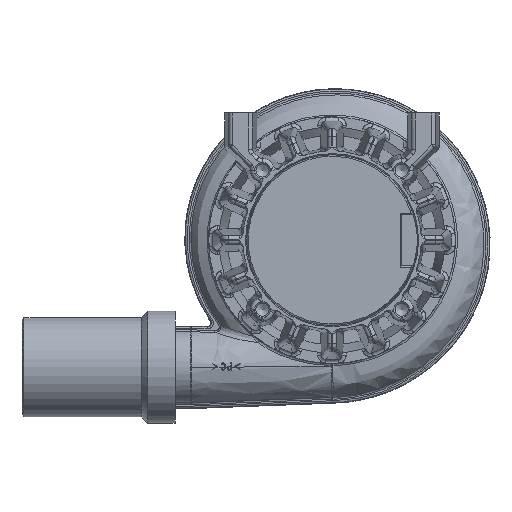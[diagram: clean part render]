
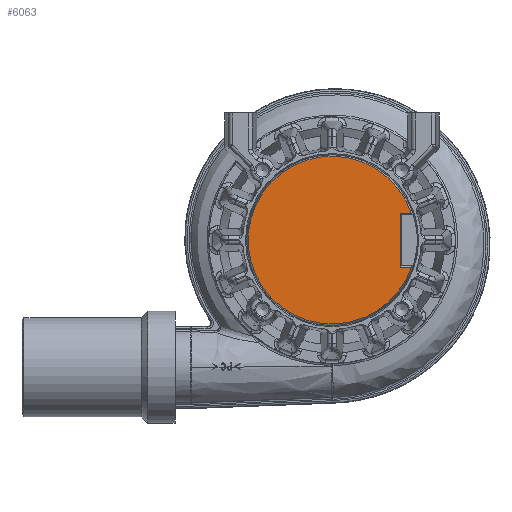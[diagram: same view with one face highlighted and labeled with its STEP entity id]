
A CAD part, front view. The second image highlights one B-rep face of the part: STEP entity #6063.
In plain terms, the highlighted planar face has unit normal (0, -1, 0).
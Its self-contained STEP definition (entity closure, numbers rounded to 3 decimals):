
#1033=FACE_OUTER_BOUND('',#7666,.T.);
#2012=LINE('',#39035,#2789);
#2015=LINE('',#39044,#2792);
#2017=LINE('',#39050,#2794);
#2789=VECTOR('',#22567,1.);
#2792=VECTOR('',#22574,1.);
#2794=VECTOR('',#22580,1.);
#5044=PLANE('',#20504);
#6063=ADVANCED_FACE('',(#1033),#5044,.F.);
#7666=EDGE_LOOP('',(#10599,#10600,#10601,#10602));
#10599=ORIENTED_EDGE('',*,*,#17577,.T.);
#10600=ORIENTED_EDGE('',*,*,#17564,.T.);
#10601=ORIENTED_EDGE('',*,*,#17568,.T.);
#10602=ORIENTED_EDGE('',*,*,#17571,.T.);
#15297=VERTEX_POINT('',#39034);
#15298=VERTEX_POINT('',#39036);
#15301=VERTEX_POINT('',#39043);
#15302=VERTEX_POINT('',#39048);
#17564=EDGE_CURVE('',#15298,#15297,#2012,.T.);
#17568=EDGE_CURVE('',#15297,#15301,#2015,.T.);
#17571=EDGE_CURVE('',#15301,#15302,#2017,.T.);
#17577=EDGE_CURVE('',#15302,#15298,#19750,.T.);
#19750=CIRCLE('',#20502,21.098);
#20502=AXIS2_PLACEMENT_3D('',#39060,#22596,#22597);
#20504=AXIS2_PLACEMENT_3D('',#39062,#22600,#22601);
#22567=DIRECTION('',(-1.,0.,0.));
#22574=DIRECTION('',(0.,0.,1.));
#22580=DIRECTION('',(1.,0.,0.));
#22596=DIRECTION('',(0.,-1.,0.));
#22597=DIRECTION('',(0.,0.,-1.));
#22600=DIRECTION('',(0.,1.,0.));
#22601=DIRECTION('',(0.,0.,-1.));
#39034=CARTESIAN_POINT('',(100.563,-1.3,-46.654));
#39035=CARTESIAN_POINT('',(100.863,-1.3,-46.654));
#39036=CARTESIAN_POINT('',(103.335,-1.3,-46.654));
#39043=CARTESIAN_POINT('',(100.563,-1.3,-33.054));
#39044=CARTESIAN_POINT('',(100.563,-1.3,-33.354));
#39048=CARTESIAN_POINT('',(103.335,-1.3,-33.054));
#39050=CARTESIAN_POINT('',(103.435,-1.3,-33.054));
#39060=CARTESIAN_POINT('',(83.363,-1.3,-39.854));
#39062=CARTESIAN_POINT('',(83.363,-1.3,-39.854));
